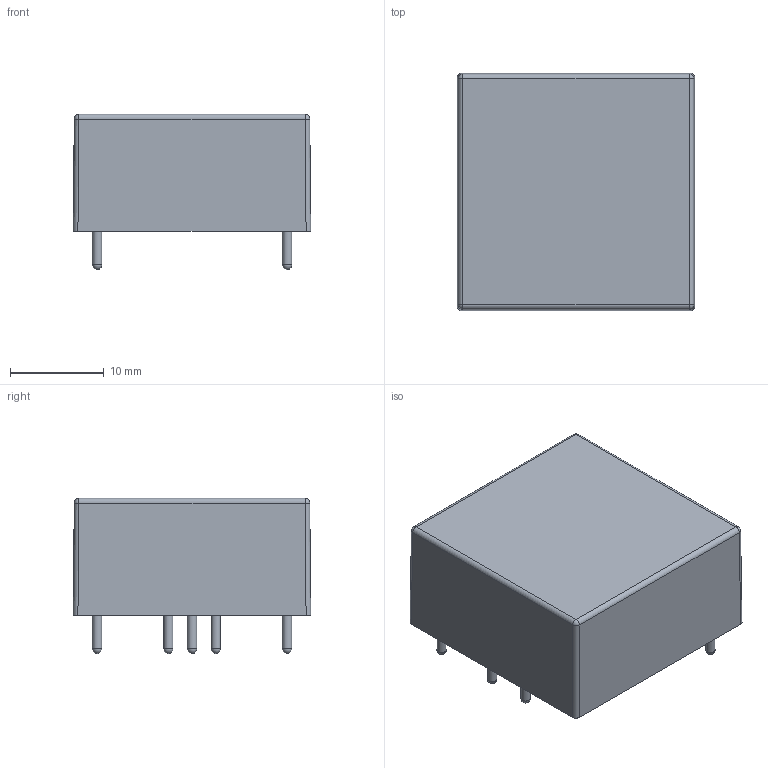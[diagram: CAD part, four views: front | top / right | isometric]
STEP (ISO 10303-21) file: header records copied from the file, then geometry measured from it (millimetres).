
FILE_DESCRIPTION(/* description */ (''),/* implementation_level */ '2;1');
FILE_NAME(/* name */ 'PFD30-XXSXXA3R2.stp',/* time_stamp */ '2025-07-15T11:35:41+08:00',/* author */ (''),/* organization */ (''),/* preprocessor_version */ 'ST-DEVELOPER v16',/* originating_system */ 'SIEMENS PLM Software NX 10.0',/* authorisation */ '123');
FILE_SCHEMA (('AUTOMOTIVE_DESIGN { 1 0 10303 214 3 1 1 1 }'));
Length unit declared in the file: millimetre
Products named in the file (1): admi5B74520Af1sy
Bounding box: 25.4 x 25.4 x 16.6 mm (x, y, z)
Volume: 8006.1 mm3; surface area: 2763.3 mm2
Topology: 7 solids, 7 shells, 48 faces, 100 edges, 62 vertices
Faces by surface type: cylinder 20, plane 18, sphere 10
Full cylindrical faces by diameter (mm): 1 x12
Entity records: 1064 total; most frequent: DIRECTION 198, CARTESIAN_POINT 153, ORIENTED_EDGE 120, AXIS2_PLACEMENT_3D 89, EDGE_LOOP 66, EDGE_CURVE 60, ADVANCED_FACE 48, VERTEX_POINT 44
